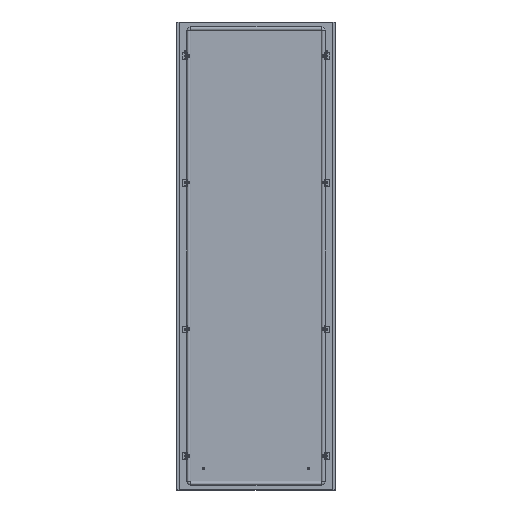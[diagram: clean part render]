
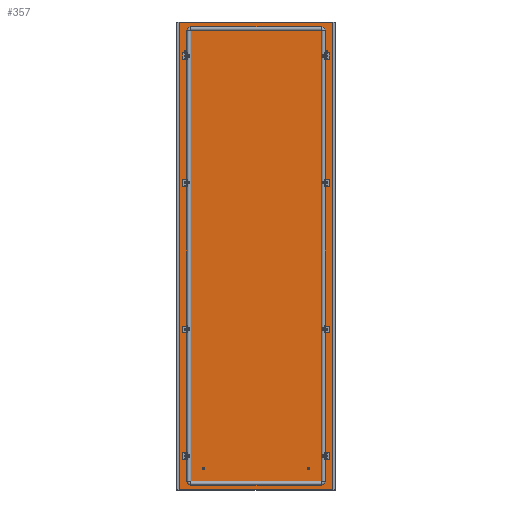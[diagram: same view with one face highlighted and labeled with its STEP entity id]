
A CAD part, top view. The second image highlights one B-rep face of the part: STEP entity #357.
In plain terms, the highlighted planar face has unit normal (0, 0, 1).
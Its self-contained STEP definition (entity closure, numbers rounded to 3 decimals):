
#357 = ADVANCED_FACE('',(#358,#456,#467,#478,#498,#518,#529,#540,#560),
  #580,.F.);
#358 = FACE_BOUND('',#359,.T.);
#359 = EDGE_LOOP('',(#360,#370,#378,#386,#394,#402,#410,#418,#426,#434,
    #442,#450));
#360 = ORIENTED_EDGE('',*,*,#361,.F.);
#361 = EDGE_CURVE('',#362,#364,#366,.T.);
#362 = VERTEX_POINT('',#363);
#363 = CARTESIAN_POINT('',(-295.5,877.5,0.));
#364 = VERTEX_POINT('',#365);
#365 = CARTESIAN_POINT('',(-295.3,877.5,0.));
#366 = LINE('',#367,#368);
#367 = CARTESIAN_POINT('',(0.,877.5,0.)
  );
#368 = VECTOR('',#369,1.);
#369 = DIRECTION('',(1.,0.,0.));
#370 = ORIENTED_EDGE('',*,*,#371,.T.);
#371 = EDGE_CURVE('',#362,#372,#374,.T.);
#372 = VERTEX_POINT('',#373);
#373 = CARTESIAN_POINT('',(-295.5,-877.5,0.));
#374 = LINE('',#375,#376);
#375 = CARTESIAN_POINT('',(-295.5,0.,
    0.));
#376 = VECTOR('',#377,1.);
#377 = DIRECTION('',(0.,-1.,0.));
#378 = ORIENTED_EDGE('',*,*,#379,.T.);
#379 = EDGE_CURVE('',#372,#380,#382,.T.);
#380 = VERTEX_POINT('',#381);
#381 = CARTESIAN_POINT('',(-295.3,-877.5,0.));
#382 = LINE('',#383,#384);
#383 = CARTESIAN_POINT('',(0.,-877.5,0.
    ));
#384 = VECTOR('',#385,1.);
#385 = DIRECTION('',(1.,-0.,-0.));
#386 = ORIENTED_EDGE('',*,*,#387,.F.);
#387 = EDGE_CURVE('',#388,#380,#390,.T.);
#388 = VERTEX_POINT('',#389);
#389 = CARTESIAN_POINT('',(-295.3,-876.,0.));
#390 = LINE('',#391,#392);
#391 = CARTESIAN_POINT('',(-295.3,0.,
    0.));
#392 = VECTOR('',#393,1.);
#393 = DIRECTION('',(0.,-1.,0.));
#394 = ORIENTED_EDGE('',*,*,#395,.T.);
#395 = EDGE_CURVE('',#388,#396,#398,.T.);
#396 = VERTEX_POINT('',#397);
#397 = CARTESIAN_POINT('',(295.3,-876.,0.));
#398 = LINE('',#399,#400);
#399 = CARTESIAN_POINT('',(0.,-876.,0.)
  );
#400 = VECTOR('',#401,1.);
#401 = DIRECTION('',(1.,-0.,-0.));
#402 = ORIENTED_EDGE('',*,*,#403,.T.);
#403 = EDGE_CURVE('',#396,#404,#406,.T.);
#404 = VERTEX_POINT('',#405);
#405 = CARTESIAN_POINT('',(295.3,-877.5,0.));
#406 = LINE('',#407,#408);
#407 = CARTESIAN_POINT('',(295.3,-876.,0.));
#408 = VECTOR('',#409,1.);
#409 = DIRECTION('',(0.,-1.,0.));
#410 = ORIENTED_EDGE('',*,*,#411,.F.);
#411 = EDGE_CURVE('',#412,#404,#414,.T.);
#412 = VERTEX_POINT('',#413);
#413 = CARTESIAN_POINT('',(295.5,-877.5,0.));
#414 = LINE('',#415,#416);
#415 = CARTESIAN_POINT('',(0.,-877.5,0.
    ));
#416 = VECTOR('',#417,1.);
#417 = DIRECTION('',(-1.,0.,0.));
#418 = ORIENTED_EDGE('',*,*,#419,.T.);
#419 = EDGE_CURVE('',#412,#420,#422,.T.);
#420 = VERTEX_POINT('',#421);
#421 = CARTESIAN_POINT('',(295.5,877.5,
    0.));
#422 = LINE('',#423,#424);
#423 = CARTESIAN_POINT('',(295.5,0.,0.));
#424 = VECTOR('',#425,1.);
#425 = DIRECTION('',(0.,1.,0.));
#426 = ORIENTED_EDGE('',*,*,#427,.T.);
#427 = EDGE_CURVE('',#420,#428,#430,.T.);
#428 = VERTEX_POINT('',#429);
#429 = CARTESIAN_POINT('',(295.3,877.5,0.));
#430 = LINE('',#431,#432);
#431 = CARTESIAN_POINT('',(0.,877.5,
    0.));
#432 = VECTOR('',#433,1.);
#433 = DIRECTION('',(-1.,-0.,-0.));
#434 = ORIENTED_EDGE('',*,*,#435,.F.);
#435 = EDGE_CURVE('',#436,#428,#438,.T.);
#436 = VERTEX_POINT('',#437);
#437 = CARTESIAN_POINT('',(295.3,876.,0.));
#438 = LINE('',#439,#440);
#439 = CARTESIAN_POINT('',(295.3,0.,0.
    ));
#440 = VECTOR('',#441,1.);
#441 = DIRECTION('',(0.,1.,0.));
#442 = ORIENTED_EDGE('',*,*,#443,.T.);
#443 = EDGE_CURVE('',#436,#444,#446,.T.);
#444 = VERTEX_POINT('',#445);
#445 = CARTESIAN_POINT('',(-295.3,876.,0.));
#446 = LINE('',#447,#448);
#447 = CARTESIAN_POINT('',(0.,876.,
    0.));
#448 = VECTOR('',#449,1.);
#449 = DIRECTION('',(-1.,-0.,-0.));
#450 = ORIENTED_EDGE('',*,*,#451,.T.);
#451 = EDGE_CURVE('',#444,#364,#452,.T.);
#452 = LINE('',#453,#454);
#453 = CARTESIAN_POINT('',(-295.3,876.,0.));
#454 = VECTOR('',#455,1.);
#455 = DIRECTION('',(0.,1.,0.));
#456 = FACE_BOUND('',#457,.T.);
#457 = EDGE_LOOP('',(#458));
#458 = ORIENTED_EDGE('',*,*,#459,.T.);
#459 = EDGE_CURVE('',#460,#460,#462,.T.);
#460 = VERTEX_POINT('',#461);
#461 = CARTESIAN_POINT('',(-264.5,-270.25,
    0.));
#462 = CIRCLE('',#463,4.75);
#463 = AXIS2_PLACEMENT_3D('',#464,#465,#466);
#464 = CARTESIAN_POINT('',(-264.5,-275.,0.));
#465 = DIRECTION('',(0.,0.,-1.));
#466 = DIRECTION('',(0.,1.,0.));
#467 = FACE_BOUND('',#468,.T.);
#468 = EDGE_LOOP('',(#469));
#469 = ORIENTED_EDGE('',*,*,#470,.T.);
#470 = EDGE_CURVE('',#471,#471,#473,.T.);
#471 = VERTEX_POINT('',#472);
#472 = CARTESIAN_POINT('',(264.5,-279.75,
    0.));
#473 = CIRCLE('',#474,4.75);
#474 = AXIS2_PLACEMENT_3D('',#475,#476,#477);
#475 = CARTESIAN_POINT('',(264.5,-275.,0.));
#476 = DIRECTION('',(-0.,0.,-1.));
#477 = DIRECTION('',(0.,-1.,0.));
#478 = FACE_BOUND('',#479,.T.);
#479 = EDGE_LOOP('',(#480,#491));
#480 = ORIENTED_EDGE('',*,*,#481,.F.);
#481 = EDGE_CURVE('',#482,#484,#486,.T.);
#482 = VERTEX_POINT('',#483);
#483 = CARTESIAN_POINT('',(-264.5,754.75,
    0.));
#484 = VERTEX_POINT('',#485);
#485 = CARTESIAN_POINT('',(-264.5,745.25,
    0.));
#486 = CIRCLE('',#487,4.75);
#487 = AXIS2_PLACEMENT_3D('',#488,#489,#490);
#488 = CARTESIAN_POINT('',(-264.5,750.,0.));
#489 = DIRECTION('',(0.,0.,1.));
#490 = DIRECTION('',(0.,1.,0.));
#491 = ORIENTED_EDGE('',*,*,#492,.F.);
#492 = EDGE_CURVE('',#484,#482,#493,.T.);
#493 = CIRCLE('',#494,4.75);
#494 = AXIS2_PLACEMENT_3D('',#495,#496,#497);
#495 = CARTESIAN_POINT('',(-264.5,750.,0.));
#496 = DIRECTION('',(0.,0.,1.));
#497 = DIRECTION('',(0.,1.,0.));
#498 = FACE_BOUND('',#499,.T.);
#499 = EDGE_LOOP('',(#500,#511));
#500 = ORIENTED_EDGE('',*,*,#501,.F.);
#501 = EDGE_CURVE('',#502,#504,#506,.T.);
#502 = VERTEX_POINT('',#503);
#503 = CARTESIAN_POINT('',(264.5,745.25,
    0.));
#504 = VERTEX_POINT('',#505);
#505 = CARTESIAN_POINT('',(264.5,754.75,
    0.));
#506 = CIRCLE('',#507,4.75);
#507 = AXIS2_PLACEMENT_3D('',#508,#509,#510);
#508 = CARTESIAN_POINT('',(264.5,750.,0.));
#509 = DIRECTION('',(0.,0.,1.));
#510 = DIRECTION('',(0.,-1.,0.));
#511 = ORIENTED_EDGE('',*,*,#512,.F.);
#512 = EDGE_CURVE('',#504,#502,#513,.T.);
#513 = CIRCLE('',#514,4.75);
#514 = AXIS2_PLACEMENT_3D('',#515,#516,#517);
#515 = CARTESIAN_POINT('',(264.5,750.,0.));
#516 = DIRECTION('',(0.,0.,1.));
#517 = DIRECTION('',(0.,-1.,0.));
#518 = FACE_BOUND('',#519,.T.);
#519 = EDGE_LOOP('',(#520));
#520 = ORIENTED_EDGE('',*,*,#521,.T.);
#521 = EDGE_CURVE('',#522,#522,#524,.T.);
#522 = VERTEX_POINT('',#523);
#523 = CARTESIAN_POINT('',(-264.5,-745.25,
    0.));
#524 = CIRCLE('',#525,4.75);
#525 = AXIS2_PLACEMENT_3D('',#526,#527,#528);
#526 = CARTESIAN_POINT('',(-264.5,-750.,0.));
#527 = DIRECTION('',(0.,0.,-1.));
#528 = DIRECTION('',(0.,1.,0.));
#529 = FACE_BOUND('',#530,.T.);
#530 = EDGE_LOOP('',(#531));
#531 = ORIENTED_EDGE('',*,*,#532,.T.);
#532 = EDGE_CURVE('',#533,#533,#535,.T.);
#533 = VERTEX_POINT('',#534);
#534 = CARTESIAN_POINT('',(264.5,-754.75,
    0.));
#535 = CIRCLE('',#536,4.75);
#536 = AXIS2_PLACEMENT_3D('',#537,#538,#539);
#537 = CARTESIAN_POINT('',(264.5,-750.,0.));
#538 = DIRECTION('',(-0.,0.,-1.));
#539 = DIRECTION('',(0.,-1.,0.));
#540 = FACE_BOUND('',#541,.T.);
#541 = EDGE_LOOP('',(#542,#553));
#542 = ORIENTED_EDGE('',*,*,#543,.F.);
#543 = EDGE_CURVE('',#544,#546,#548,.T.);
#544 = VERTEX_POINT('',#545);
#545 = CARTESIAN_POINT('',(264.5,270.25,
    0.));
#546 = VERTEX_POINT('',#547);
#547 = CARTESIAN_POINT('',(264.5,279.75,
    0.));
#548 = CIRCLE('',#549,4.75);
#549 = AXIS2_PLACEMENT_3D('',#550,#551,#552);
#550 = CARTESIAN_POINT('',(264.5,275.,0.));
#551 = DIRECTION('',(0.,0.,1.));
#552 = DIRECTION('',(0.,-1.,0.));
#553 = ORIENTED_EDGE('',*,*,#554,.F.);
#554 = EDGE_CURVE('',#546,#544,#555,.T.);
#555 = CIRCLE('',#556,4.75);
#556 = AXIS2_PLACEMENT_3D('',#557,#558,#559);
#557 = CARTESIAN_POINT('',(264.5,275.,0.));
#558 = DIRECTION('',(0.,0.,1.));
#559 = DIRECTION('',(0.,-1.,0.));
#560 = FACE_BOUND('',#561,.T.);
#561 = EDGE_LOOP('',(#562,#573));
#562 = ORIENTED_EDGE('',*,*,#563,.F.);
#563 = EDGE_CURVE('',#564,#566,#568,.T.);
#564 = VERTEX_POINT('',#565);
#565 = CARTESIAN_POINT('',(-264.5,279.75,
    0.));
#566 = VERTEX_POINT('',#567);
#567 = CARTESIAN_POINT('',(-264.5,270.25,
    0.));
#568 = CIRCLE('',#569,4.75);
#569 = AXIS2_PLACEMENT_3D('',#570,#571,#572);
#570 = CARTESIAN_POINT('',(-264.5,275.,0.));
#571 = DIRECTION('',(0.,0.,1.));
#572 = DIRECTION('',(0.,1.,0.));
#573 = ORIENTED_EDGE('',*,*,#574,.F.);
#574 = EDGE_CURVE('',#566,#564,#575,.T.);
#575 = CIRCLE('',#576,4.75);
#576 = AXIS2_PLACEMENT_3D('',#577,#578,#579);
#577 = CARTESIAN_POINT('',(-264.5,275.,0.));
#578 = DIRECTION('',(0.,0.,1.));
#579 = DIRECTION('',(0.,1.,0.));
#580 = PLANE('',#581);
#581 = AXIS2_PLACEMENT_3D('',#582,#583,#584);
#582 = CARTESIAN_POINT('',(0.,0.,
    0.));
#583 = DIRECTION('',(-0.,0.,-1.));
#584 = DIRECTION('',(-1.,0.,0.));
